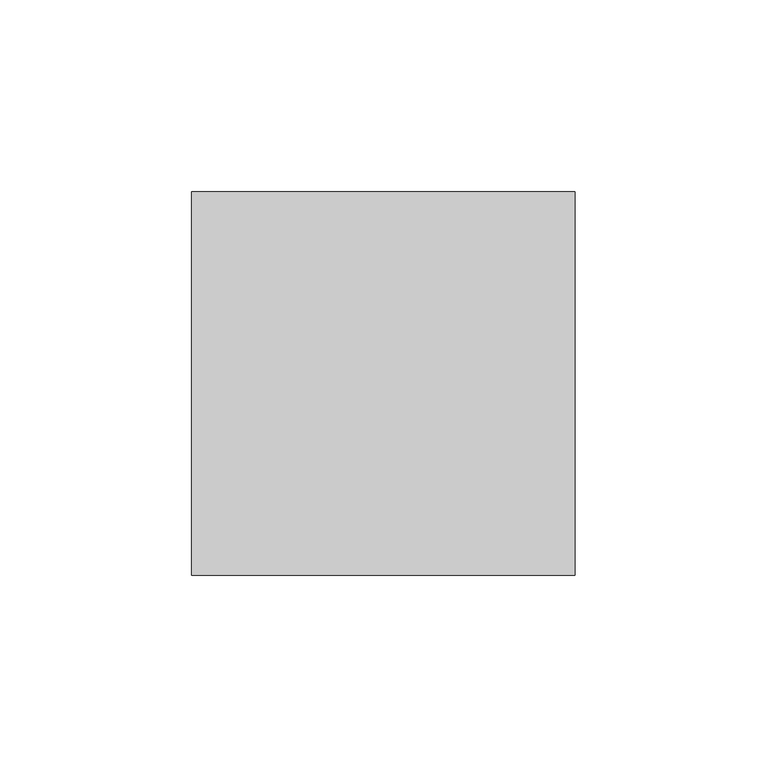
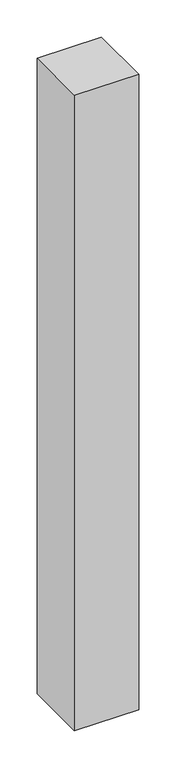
"""IFC4 building model written with IfcOpenShell, lengths in millimetres: proxy geometry, Брус : 100х100."""

from ifc_helpers import new_model, si_unit, origin, origin_with_axes, place, context, project, spatial, polyline, outline, extrude, source, transform, mapped, element, save


def generic_models_d63eb119(model_context):
    return source(origin(), model_context, "Body", "SweptSolid", [
        extrude(outline(polyline([(100.0, 0.0), (0.0, 0.0), (0.0, 100.0), (100.0, 100.0), (100.0, 0.0)])), origin_with_axes(), (0.0, 0.0, 1.0), 1045.0),
    ])


if __name__ == "__main__":
    model = new_model("IFC4")
    model_context = context("Model", 3, world=origin())
    ifc_project = project(units=[si_unit("LENGTHUNIT", "METRE", prefix="MILLI")], contexts=[model_context])
    site = spatial("IfcSite", under=ifc_project)
    building = spatial("IfcBuilding", under=site)
    placement = place(None, origin())
    generic_models_shape = generic_models_d63eb119(model_context)
    element("IfcBuildingElementProxy", 1, Name="Брус : 100х100", ObjectType="Брус : 100х100", at=placement, inside=building, context=model_context, shape_type="MappedRepresentation", body=[
        mapped(generic_models_shape, transform((0.0, 0.0, 0.0), x_axis=(1.0, 0.0, 0.0), y_axis=(0.0, 1.0, 0.0), z_axis=(0.0, 0.0, 1.0))),
    ])
    save(model, "model.ifc")
